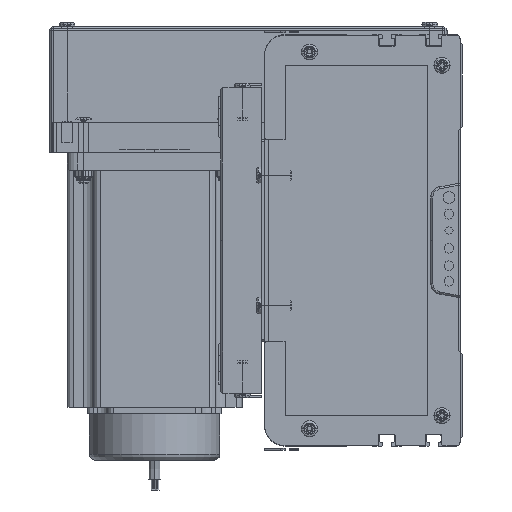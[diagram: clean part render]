
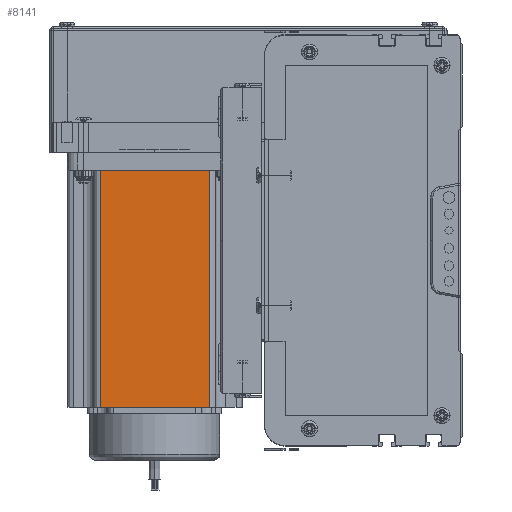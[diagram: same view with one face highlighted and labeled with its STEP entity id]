
A CAD part, left-side view. The second image highlights one B-rep face of the part: STEP entity #8141.
In plain terms, the highlighted planar face has unit normal (-1, 0, 0) as drawn and (0, -1, 0) by its records, which use the part's own axes.
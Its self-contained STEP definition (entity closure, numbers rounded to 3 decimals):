
#4685 = ORIENTED_EDGE ( 'NONE', *, *, #8214, .T. ) ;
#7271 = ORIENTED_EDGE ( 'NONE', *, *, #7282, .T. ) ;
#7273 = EDGE_CURVE ( 'NONE', #8129, #8137, #142314, .T. ) ;
#7274 = ORIENTED_EDGE ( 'NONE', *, *, #7279, .F. ) ;
#7277 = VERTEX_POINT ( 'NONE', #142840 ) ;
#7279 = EDGE_CURVE ( 'NONE', #7277, #8126, #142590, .T. ) ;
#7282 = EDGE_CURVE ( 'NONE', #8137, #8126, #144323, .T. ) ;
#7858 = EDGE_LOOP ( 'NONE', ( #8285, #7271, #7274, #4685 ) ) ;
#8126 = VERTEX_POINT ( 'NONE', #122879 ) ;
#8129 = VERTEX_POINT ( 'NONE', #122933 ) ;
#8137 = VERTEX_POINT ( 'NONE', #122778 ) ;
#8141 = ADVANCED_FACE ( 'NONE', ( #122918 ), #122766, .F. ) ;
#8214 = EDGE_CURVE ( 'NONE', #7277, #8129, #123405, .T. ) ;
#8285 = ORIENTED_EDGE ( 'NONE', *, *, #7273, .T. ) ;
#122766 = PLANE ( 'NONE',  #122780 ) ;
#122778 = CARTESIAN_POINT ( 'NONE',  ( 69.74, 0., 0. ) ) ;
#122780 = AXIS2_PLACEMENT_3D ( 'NONE', #122971, #122969, #122968 ) ;
#122879 = CARTESIAN_POINT ( 'NONE',  ( 69.74, 0., 116.5 ) ) ;
#122918 = FACE_OUTER_BOUND ( 'NONE', #7858, .T. ) ;
#122933 = CARTESIAN_POINT ( 'NONE',  ( 16.16, 0., 0. ) ) ;
#122968 = DIRECTION ( 'NONE',  ( 0., 0., 1. ) ) ;
#122969 = DIRECTION ( 'NONE',  ( 0., 1., 0. ) ) ;
#122971 = CARTESIAN_POINT ( 'NONE',  ( 0., 0., 116.5 ) ) ;
#123402 = DIRECTION ( 'NONE',  ( 0., 0., -1. ) ) ;
#123403 = VECTOR ( 'NONE', #123402, 1000. ) ;
#123404 = CARTESIAN_POINT ( 'NONE',  ( 16.16, 0., 116.5 ) ) ;
#123405 = LINE ( 'NONE', #123404, #123403 ) ;
#141201 = VECTOR ( 'NONE', #141407, 1000. ) ;
#141407 = DIRECTION ( 'NONE',  ( 1., 0., 0. ) ) ;
#142107 = VECTOR ( 'NONE', #142236, 1000. ) ;
#142236 = DIRECTION ( 'NONE',  ( 1., 0., 0. ) ) ;
#142314 = LINE ( 'NONE', #142378, #142107 ) ;
#142378 = CARTESIAN_POINT ( 'NONE',  ( 0., 0., 0. ) ) ;
#142590 = LINE ( 'NONE', #142696, #141201 ) ;
#142696 = CARTESIAN_POINT ( 'NONE',  ( 0., 0., 116.5 ) ) ;
#142840 = CARTESIAN_POINT ( 'NONE',  ( 16.16, 0., 116.5 ) ) ;
#144160 = VECTOR ( 'NONE', #144313, 1000. ) ;
#144301 = CARTESIAN_POINT ( 'NONE',  ( 69.74, 0., 116.5 ) ) ;
#144313 = DIRECTION ( 'NONE',  ( 0., 0., 1. ) ) ;
#144323 = LINE ( 'NONE', #144301, #144160 ) ;
